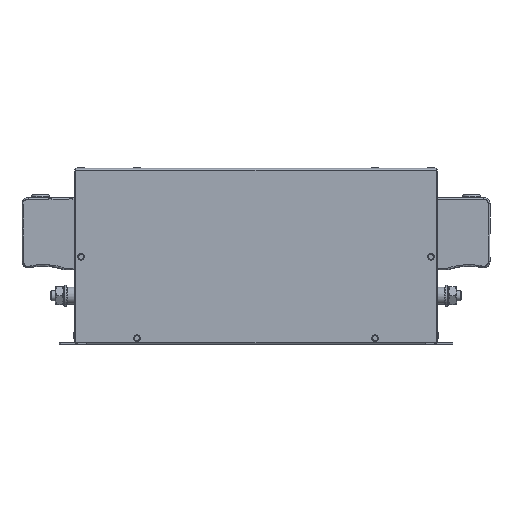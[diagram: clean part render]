
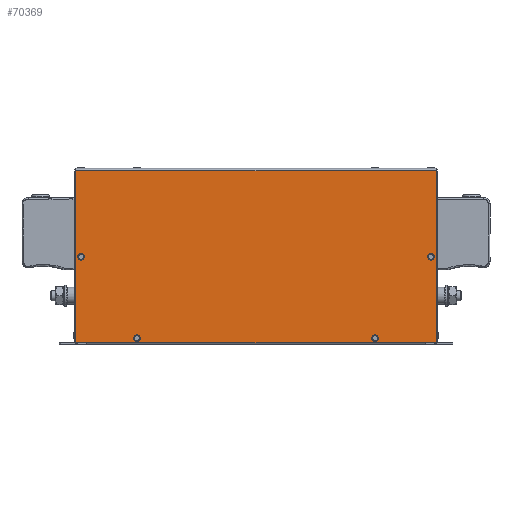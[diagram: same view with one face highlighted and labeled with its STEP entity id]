
A CAD part, front view. The second image highlights one B-rep face of the part: STEP entity #70369.
In plain terms, the highlighted planar face has unit normal (0, -1, 0).
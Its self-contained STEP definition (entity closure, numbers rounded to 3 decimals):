
#60662=CARTESIAN_POINT('',(-172.25,-120.,0.45));
#60663=VERTEX_POINT('',#60662);
#60664=CARTESIAN_POINT('',(-169.,-120.,0.45));
#60665=DIRECTION('',(0.,1.0,0.));
#60666=DIRECTION('',(-1.0,0.,0.));
#60667=AXIS2_PLACEMENT_3D('',#60664,#60665,#60666);
#60668=CIRCLE('',#60667,3.25);
#60669=EDGE_CURVE('',#60663,#60663,#60668,.T.);
#60846=CARTESIAN_POINT('',(-118.25,-120.,-78.25));
#60847=VERTEX_POINT('',#60846);
#60848=CARTESIAN_POINT('',(-115.,-120.,-78.25));
#60849=DIRECTION('',(0.,1.0,0.));
#60850=DIRECTION('',(-1.0,0.,0.));
#60851=AXIS2_PLACEMENT_3D('',#60848,#60849,#60850);
#60852=CIRCLE('',#60851,3.25);
#60853=EDGE_CURVE('',#60847,#60847,#60852,.T.);
#61590=CARTESIAN_POINT('',(165.75,-120.,0.45));
#61591=VERTEX_POINT('',#61590);
#61592=CARTESIAN_POINT('',(169.,-120.,0.45));
#61593=DIRECTION('',(0.,1.0,0.));
#61594=DIRECTION('',(-1.0,0.,0.));
#61595=AXIS2_PLACEMENT_3D('',#61592,#61593,#61594);
#61596=CIRCLE('',#61595,3.25);
#61597=EDGE_CURVE('',#61591,#61591,#61596,.T.);
#61774=CARTESIAN_POINT('',(111.75,-120.,-78.25));
#61775=VERTEX_POINT('',#61774);
#61776=CARTESIAN_POINT('',(115.,-120.,-78.25));
#61777=DIRECTION('',(0.,1.0,0.));
#61778=DIRECTION('',(-1.0,0.,0.));
#61779=AXIS2_PLACEMENT_3D('',#61776,#61777,#61778);
#61780=CIRCLE('',#61779,3.25);
#61781=EDGE_CURVE('',#61775,#61775,#61780,.T.);
#69868=CARTESIAN_POINT('',(-174.,-120.,-82.75));
#69869=VERTEX_POINT('',#69868);
#69876=CARTESIAN_POINT('',(-174.,-120.,83.45));
#69877=VERTEX_POINT('',#69876);
#69878=CARTESIAN_POINT('',(-174.,-120.,-82.75));
#69879=DIRECTION('',(0.0,0.0,1.0));
#69880=VECTOR('',#69879,166.2);
#69881=LINE('',#69878,#69880);
#69882=EDGE_CURVE('',#69869,#69877,#69881,.T.);
#70271=CARTESIAN_POINT('',(174.,-120.,83.45));
#70272=VERTEX_POINT('',#70271);
#70280=CARTESIAN_POINT('',(174.,-120.,-82.75));
#70281=VERTEX_POINT('',#70280);
#70282=CARTESIAN_POINT('',(174.,-120.,83.45));
#70283=DIRECTION('',(0.0,0.0,-1.0));
#70284=VECTOR('',#70283,166.2);
#70285=LINE('',#70282,#70284);
#70286=EDGE_CURVE('',#70272,#70281,#70285,.T.);
#70319=CARTESIAN_POINT('',(174.,-120.,83.45));
#70320=DIRECTION('',(-1.0,0.,0.0));
#70321=VECTOR('',#70320,348.0);
#70322=LINE('',#70319,#70321);
#70323=EDGE_CURVE('',#70272,#69877,#70322,.T.);
#70341=CARTESIAN_POINT('',(0.,-120.,1.5));
#70342=DIRECTION('',(0.,-1.0,0.));
#70343=DIRECTION('',(1.0,0.,0.));
#70344=AXIS2_PLACEMENT_3D('',#70341,#70342,#70343);
#70345=PLANE('',#70344);
#70346=ORIENTED_EDGE('',*,*,#70323,.T.);
#70347=ORIENTED_EDGE('',*,*,#69882,.F.);
#70348=CARTESIAN_POINT('',(174.,-120.,-82.75));
#70349=DIRECTION('',(-1.0,0.,0.0));
#70350=VECTOR('',#70349,348.);
#70351=LINE('',#70348,#70350);
#70352=EDGE_CURVE('',#70281,#69869,#70351,.T.);
#70353=ORIENTED_EDGE('',*,*,#70352,.F.);
#70354=ORIENTED_EDGE('',*,*,#70286,.F.);
#70355=EDGE_LOOP('',(#70346,#70347,#70353,#70354));
#70356=FACE_OUTER_BOUND('',#70355,.T.);
#70357=ORIENTED_EDGE('',*,*,#60669,.T.);
#70358=EDGE_LOOP('',(#70357));
#70359=FACE_BOUND('',#70358,.T.);
#70360=ORIENTED_EDGE('',*,*,#60853,.T.);
#70361=EDGE_LOOP('',(#70360));
#70362=FACE_BOUND('',#70361,.T.);
#70363=ORIENTED_EDGE('',*,*,#61597,.T.);
#70364=EDGE_LOOP('',(#70363));
#70365=FACE_BOUND('',#70364,.T.);
#70366=ORIENTED_EDGE('',*,*,#61781,.T.);
#70367=EDGE_LOOP('',(#70366));
#70368=FACE_BOUND('',#70367,.T.);
#70369=ADVANCED_FACE('',(#70356,#70359,#70362,#70365,#70368),#70345,.T.);
